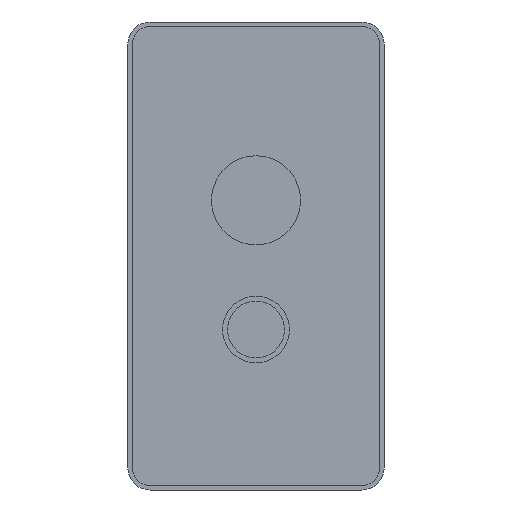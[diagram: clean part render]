
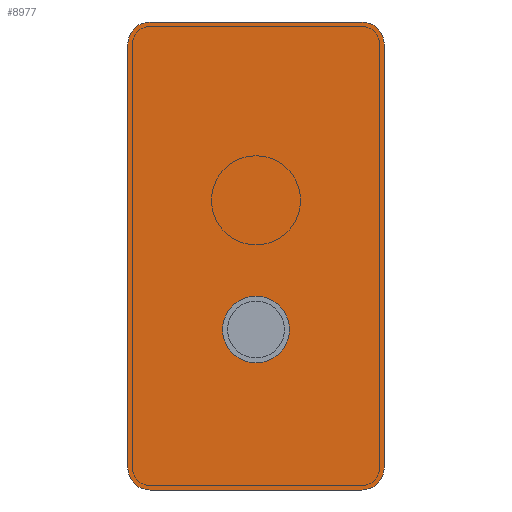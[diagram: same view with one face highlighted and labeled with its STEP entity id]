
A CAD part, front view. The second image highlights one B-rep face of the part: STEP entity #8977.
In plain terms, the highlighted planar face has unit normal (0, -1, 0).
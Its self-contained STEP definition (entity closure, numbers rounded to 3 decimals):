
#2295=CARTESIAN_POINT('',(47.5,0.,-95.));
#2296=DIRECTION('',(0.,-1.,0.));
#2297=DIRECTION('',(0.,0.,-1.));
#2298=AXIS2_PLACEMENT_3D('',#2295,#2296,#2297);
#2300=DIRECTION('',(-1.,0.,0.));
#2301=VECTOR('',#2300,95.);
#2302=CARTESIAN_POINT('',(47.5,0.,-105.));
#2303=LINE('',#2302,#2301);
#2304=CARTESIAN_POINT('',(-47.5,0.,-95.));
#2305=DIRECTION('',(0.,-1.,0.));
#2306=DIRECTION('',(-1.,0.,0.));
#2307=AXIS2_PLACEMENT_3D('',#2304,#2305,#2306);
#2309=DIRECTION('',(0.,0.,1.));
#2310=VECTOR('',#2309,190.);
#2311=CARTESIAN_POINT('',(-57.5,0.,-95.));
#2312=LINE('',#2311,#2310);
#2313=CARTESIAN_POINT('',(-47.5,0.,95.));
#2314=DIRECTION('',(0.,-1.,0.));
#2315=DIRECTION('',(0.,0.,1.));
#2316=AXIS2_PLACEMENT_3D('',#2313,#2314,#2315);
#2318=DIRECTION('',(1.,0.,0.));
#2319=VECTOR('',#2318,95.);
#2320=CARTESIAN_POINT('',(-47.5,0.,105.));
#2321=LINE('',#2320,#2319);
#2322=CARTESIAN_POINT('',(47.5,0.,95.));
#2323=DIRECTION('',(0.,-1.,0.));
#2324=DIRECTION('',(1.,0.,0.));
#2325=AXIS2_PLACEMENT_3D('',#2322,#2323,#2324);
#2327=DIRECTION('',(0.,0.,-1.));
#2328=VECTOR('',#2327,190.);
#2329=CARTESIAN_POINT('',(57.5,0.,95.));
#2330=LINE('',#2329,#2328);
#2331=CARTESIAN_POINT('',(0.,0.,-33.));
#2332=DIRECTION('',(0.,1.,0.));
#2333=DIRECTION('',(-1.,0.,0.));
#2334=AXIS2_PLACEMENT_3D('',#2331,#2332,#2333);
#2336=CARTESIAN_POINT('',(0.,0.,-33.));
#2337=DIRECTION('',(0.,1.,0.));
#2338=DIRECTION('',(1.,0.,0.));
#2339=AXIS2_PLACEMENT_3D('',#2336,#2337,#2338);
#4674=CARTESIAN_POINT('',(47.5,0.,-105.));
#4675=CARTESIAN_POINT('',(57.5,0.,-95.));
#4676=VERTEX_POINT('',#4674);
#4677=VERTEX_POINT('',#4675);
#4678=CARTESIAN_POINT('',(-57.5,0.,-95.));
#4679=CARTESIAN_POINT('',(-47.5,0.,-105.));
#4680=VERTEX_POINT('',#4678);
#4681=VERTEX_POINT('',#4679);
#4682=CARTESIAN_POINT('',(57.5,0.,95.));
#4683=CARTESIAN_POINT('',(47.5,0.,105.));
#4684=VERTEX_POINT('',#4682);
#4685=VERTEX_POINT('',#4683);
#4686=CARTESIAN_POINT('',(-47.5,0.,105.));
#4687=CARTESIAN_POINT('',(-57.5,0.,95.));
#4688=VERTEX_POINT('',#4686);
#4689=VERTEX_POINT('',#4687);
#5487=CARTESIAN_POINT('',(-15.,0.,-33.));
#5488=CARTESIAN_POINT('',(15.,0.,-33.));
#5489=VERTEX_POINT('',#5487);
#5490=VERTEX_POINT('',#5488);
#8956=CARTESIAN_POINT('',(0.,0.,0.));
#8957=DIRECTION('',(0.,1.,0.));
#8958=DIRECTION('',(1.,0.,0.));
#8959=AXIS2_PLACEMENT_3D('',#8956,#8957,#8958);
#8960=PLANE('',#8959);
#8961=ORIENTED_EDGE('',*,*,#8852,.F.);
#8962=ORIENTED_EDGE('',*,*,#8867,.T.);
#8963=ORIENTED_EDGE('',*,*,#8881,.F.);
#8964=ORIENTED_EDGE('',*,*,#8895,.T.);
#8965=ORIENTED_EDGE('',*,*,#8909,.F.);
#8966=ORIENTED_EDGE('',*,*,#8923,.T.);
#8967=ORIENTED_EDGE('',*,*,#8937,.F.);
#8968=ORIENTED_EDGE('',*,*,#8950,.T.);
#8969=EDGE_LOOP('',(#8961,#8962,#8963,#8964,#8965,#8966,#8967,#8968));
#8970=FACE_OUTER_BOUND('',#8969,.F.);
#8972=ORIENTED_EDGE('',*,*,#8971,.F.);
#8974=ORIENTED_EDGE('',*,*,#8973,.F.);
#8975=EDGE_LOOP('',(#8972,#8974));
#8976=FACE_BOUND('',#8975,.F.);
#8977=ADVANCED_FACE('',(#8970,#8976),#8960,.F.);
#2299=CIRCLE('',#2298,10.);
#2308=CIRCLE('',#2307,10.);
#2317=CIRCLE('',#2316,10.);
#2326=CIRCLE('',#2325,10.);
#2335=CIRCLE('',#2334,15.);
#2340=CIRCLE('',#2339,15.);
#8852=EDGE_CURVE('',#4676,#4677,#2299,.T.);
#8867=EDGE_CURVE('',#4676,#4681,#2303,.T.);
#8881=EDGE_CURVE('',#4680,#4681,#2308,.T.);
#8895=EDGE_CURVE('',#4680,#4689,#2312,.T.);
#8909=EDGE_CURVE('',#4688,#4689,#2317,.T.);
#8923=EDGE_CURVE('',#4688,#4685,#2321,.T.);
#8937=EDGE_CURVE('',#4684,#4685,#2326,.T.);
#8950=EDGE_CURVE('',#4684,#4677,#2330,.T.);
#8971=EDGE_CURVE('',#5489,#5490,#2335,.T.);
#8973=EDGE_CURVE('',#5490,#5489,#2340,.T.);
